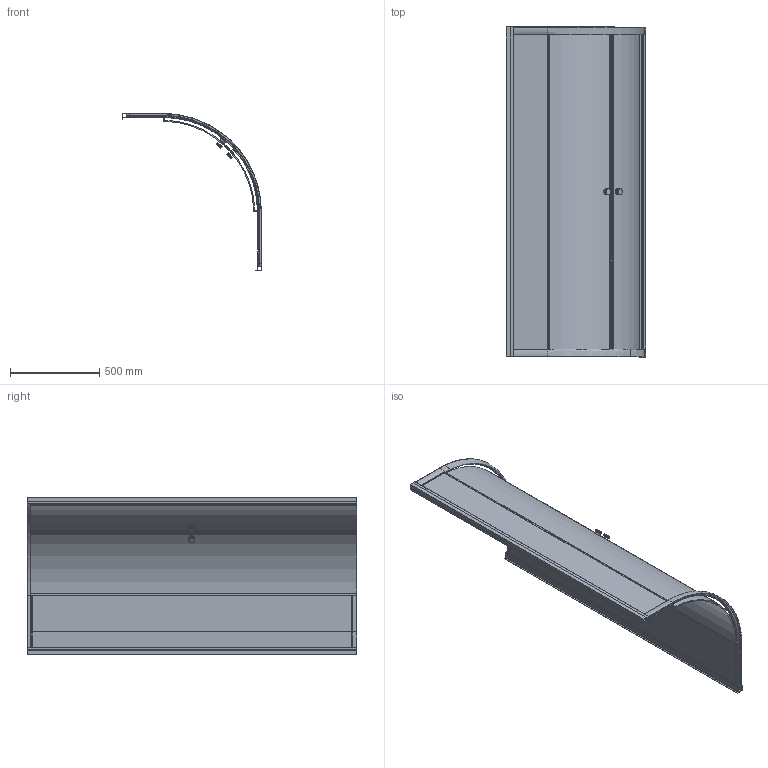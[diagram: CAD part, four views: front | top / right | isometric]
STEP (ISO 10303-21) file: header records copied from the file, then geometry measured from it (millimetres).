
FILE_DESCRIPTION(/* description */ (''),/* implementation_level */ '2;1');
FILE_NAME(/* name */ 'D:\Omnires\Export_Omnires\rys_step\5902539818901_stp.stp',/* time_stamp */ '2020-07-27T14:23:53+02:00',/* author */ (''),/* organization */ (''),/* preprocessor_version */ 'ST-DEVELOPER v18.1',/* originating_system */ 'Autodesk Inventor 2020',/* authorisation */ '');
FILE_SCHEMA (('AUTOMOTIVE_DESIGN { 1 0 10303 214 3 1 1 }'));
Length unit declared in the file: millimetre
Products named in the file (1): 5902539818901_dwg
Bounding box: 783.85 x 1850.24 x 883.85 mm (x, y, z)
Surface area: 7770839.4 mm2 (no closed solid volume)
Topology: 0 solids, 20 shells, 392 faces, 1039 edges, 686 vertices
Faces by surface type: plane 285, bspline 58, cylinder 37, cone 12
Full cylindrical faces by diameter (mm): 17.228 x4, 34.455 x8, 35.891 x4
Entity records: 33523 total; most frequent: CARTESIAN_POINT 23549, ORIENTED_EDGE 2084, DIRECTION 1786, EDGE_CURVE 1042, LINE 810, VECTOR 810, VERTEX_POINT 690, AXIS2_PLACEMENT_3D 488
